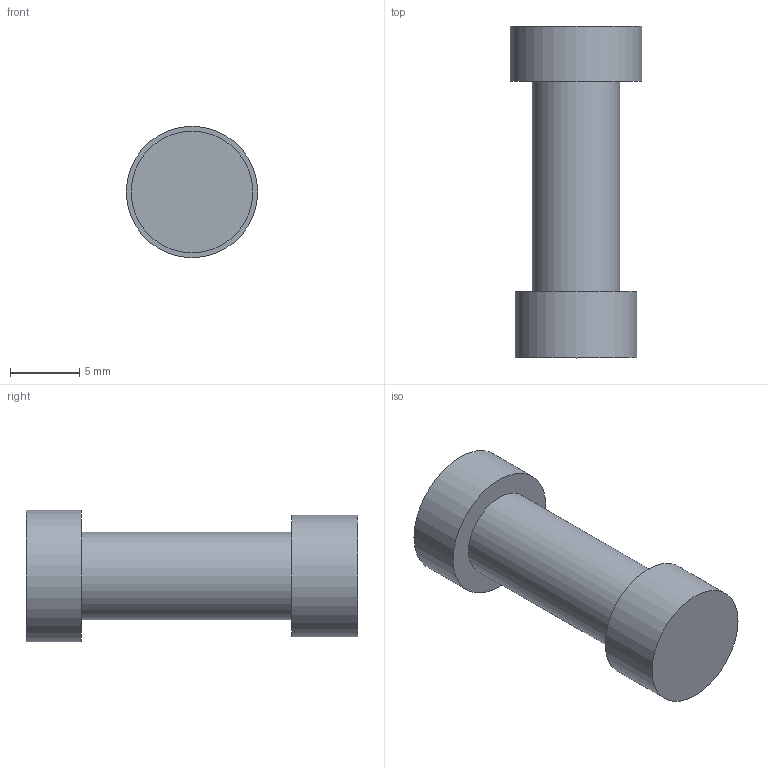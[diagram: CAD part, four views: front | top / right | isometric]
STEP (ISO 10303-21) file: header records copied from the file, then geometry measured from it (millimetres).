
FILE_DESCRIPTION(('Open CASCADE Model'),'2;1');
FILE_NAME('Open CASCADE Shape Model','2026-10-15T19:48:37',('Author'),( 'Open CASCADE'),'Open CASCADE STEP processor 7.9','Open CASCADE 7.9' ,'Unknown');
FILE_SCHEMA(('AUTOMOTIVE_DESIGN { 1 0 10303 214 1 1 1 1 }'));
Length unit declared in the file: millimetre
Products named in the file (1): Open CASCADE STEP translator 7.9 2
Bounding box: 9.5 x 24 x 9.5 mm (x, y, z)
Volume: 1055.3 mm3; surface area: 755.1 mm2
Topology: 1 solids, 1 shells, 7 faces, 9 edges, 6 vertices
Faces by surface type: plane 4, cylinder 3
Full cylindrical faces by diameter (mm): 6.34 x1, 8.8 x1, 9.5 x1
Entity records: 279 total; most frequent: DIRECTION 48, CARTESIAN_POINT 47, ORIENTED_EDGE 18, PCURVE 18, DEFINITIONAL_REPRESENTATION 18, LINE 15, VECTOR 15, AXIS2_PLACEMENT_3D 14
